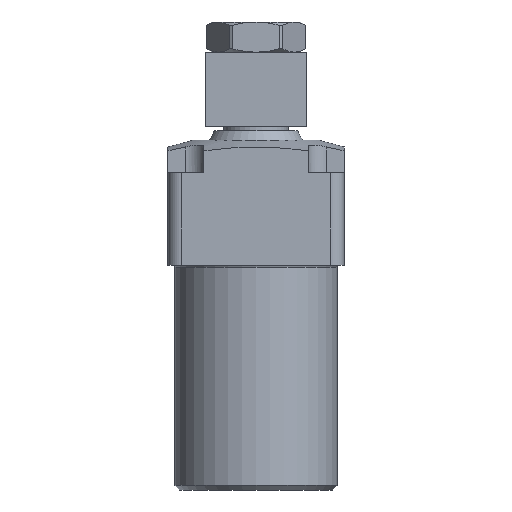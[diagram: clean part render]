
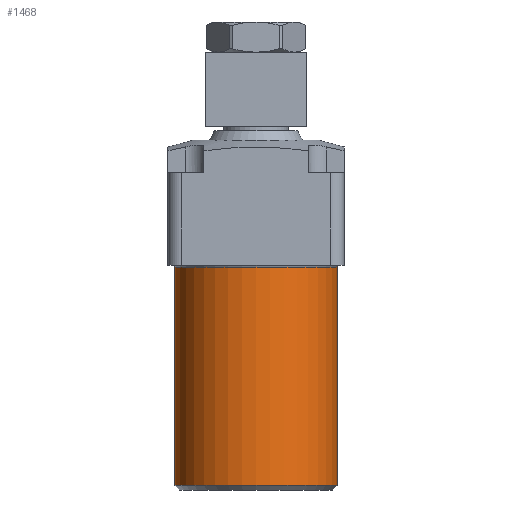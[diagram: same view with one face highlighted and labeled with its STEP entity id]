
A CAD part, left-side view. The second image highlights one B-rep face of the part: STEP entity #1468.
In plain terms, the highlighted cylindrical face has radius 17.5 mm (diameter 35 mm), a full revolution.
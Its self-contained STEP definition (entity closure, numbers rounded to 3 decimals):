
#168=FACE_BOUND('',#1854,.T.);
#169=FACE_BOUND('',#1855,.T.);
#1280=CYLINDRICAL_SURFACE('',#3975,17.5);
#1468=ADVANCED_FACE('',(#168,#169),#1280,.T.);
#1854=EDGE_LOOP('',(#2615));
#1855=EDGE_LOOP('',(#2616));
#2615=ORIENTED_EDGE('',*,*,#3381,.T.);
#2616=ORIENTED_EDGE('',*,*,#3382,.T.);
#3093=VERTEX_POINT('',#5764);
#3094=VERTEX_POINT('',#5766);
#3381=EDGE_CURVE('',#3093,#3093,#3586,.T.);
#3382=EDGE_CURVE('',#3094,#3094,#3587,.T.);
#3586=CIRCLE('',#3973,17.5);
#3587=CIRCLE('',#3974,17.5);
#3973=AXIS2_PLACEMENT_3D('',#5763,#4491,#4492);
#3974=AXIS2_PLACEMENT_3D('',#5765,#4493,#4494);
#3975=AXIS2_PLACEMENT_3D('',#5767,#4495,#4496);
#4491=DIRECTION('',(0.,0.,-1.));
#4492=DIRECTION('',(0.,-1.,0.));
#4493=DIRECTION('',(0.,0.,1.));
#4494=DIRECTION('',(0.,-1.,0.));
#4495=DIRECTION('',(0.,0.,-1.));
#4496=DIRECTION('',(0.,1.,0.));
#5763=CARTESIAN_POINT('',(-82.742,162.246,9.35));
#5764=CARTESIAN_POINT('',(-82.742,144.746,9.35));
#5765=CARTESIAN_POINT('',(-82.742,162.246,-37.75));
#5766=CARTESIAN_POINT('',(-82.742,144.746,-37.75));
#5767=CARTESIAN_POINT('',(-82.742,162.246,9.75));
